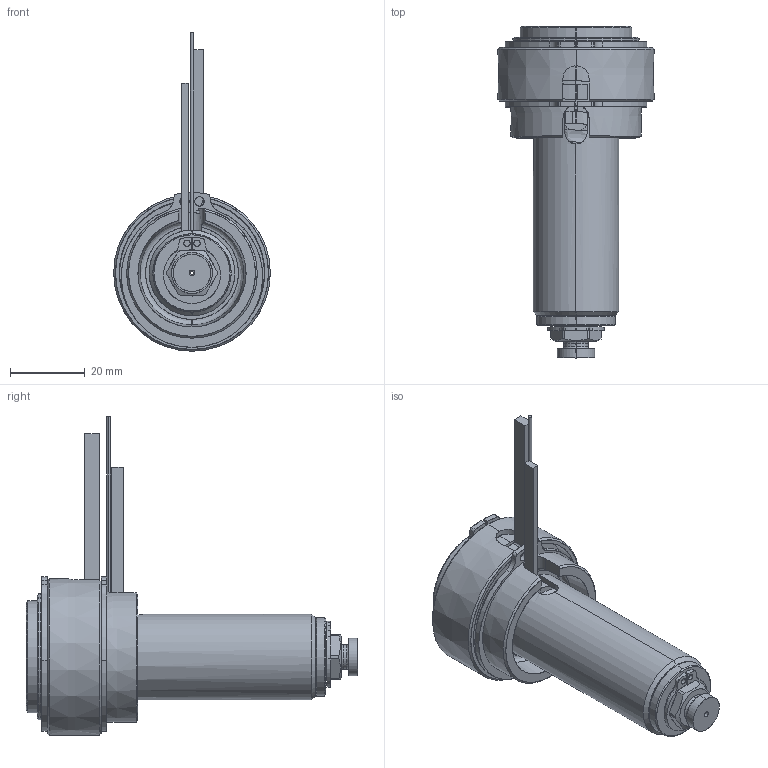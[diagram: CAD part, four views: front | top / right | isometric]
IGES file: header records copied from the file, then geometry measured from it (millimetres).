
Start section: SolidWorks IGES file using analytic representation for surfaces
Global section: file name: C:\Users\luca.EMPAD\Desktop\TEM\UGBE3501-M-A-3 [Ød-1.0 P-0 ØC-6.0].IGS; native system: SolidWorks 2012; preprocessor: SolidWorks 2012; author: luca; date: 120330.135405; units: millimetre
Bounding box: 42 x 89 x 85.4 mm (x, y, z)
Surface area: 26666.4 mm2 (no closed solid volume)
Topology: 0 solids, 0 shells, 185 faces, 3306 edges, 3306 vertices
Faces by surface type: revolution 118, bspline 67
